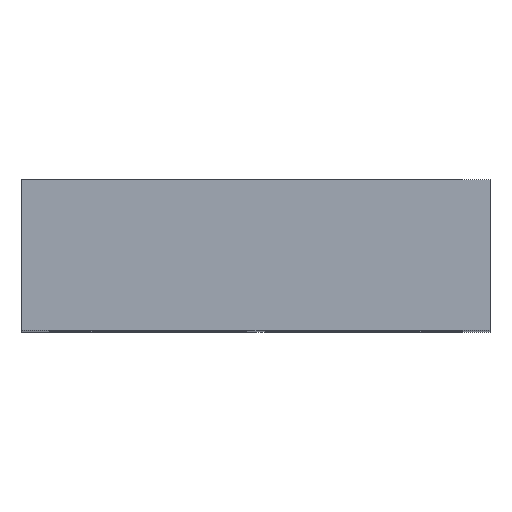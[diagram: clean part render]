
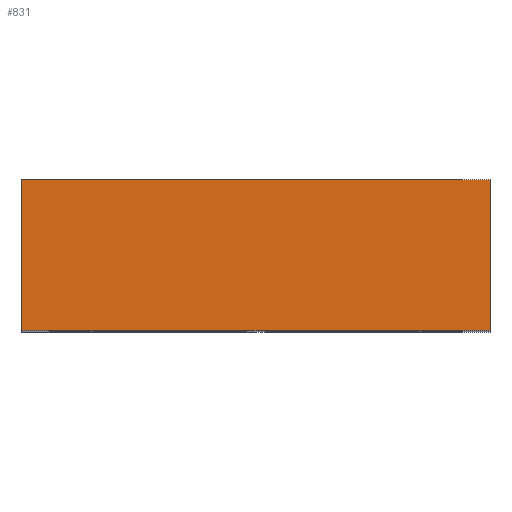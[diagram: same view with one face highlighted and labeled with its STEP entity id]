
A CAD part, top view. The second image highlights one B-rep face of the part: STEP entity #831.
In plain terms, the highlighted planar face has unit normal (0, 0, 1).
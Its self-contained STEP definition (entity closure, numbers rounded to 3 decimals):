
#9 = CARTESIAN_POINT ( 'NONE',  ( 101., 65., 239.5 ) ) ;
#11 = VERTEX_POINT ( 'NONE', #9 ) ;
#36 = VERTEX_POINT ( 'NONE', #65 ) ;
#38 = VERTEX_POINT ( 'NONE', #79 ) ;
#45 = VERTEX_POINT ( 'NONE', #86 ) ;
#65 = CARTESIAN_POINT ( 'NONE',  ( 101., 0., 239.5 ) ) ;
#79 = CARTESIAN_POINT ( 'NONE',  ( -101., 0., 239.5 ) ) ;
#86 = CARTESIAN_POINT ( 'NONE',  ( -101., 65., 239.5 ) ) ;
#111 = CARTESIAN_POINT ( 'NONE',  ( 101., 65., 239.5 ) ) ;
#114 = DIRECTION ( 'NONE',  ( 0., -1., 0. ) ) ;
#131 = CARTESIAN_POINT ( 'NONE',  ( -101., 65., 239.5 ) ) ;
#136 = DIRECTION ( 'NONE',  ( 1., 0., 0. ) ) ;
#155 = CARTESIAN_POINT ( 'NONE',  ( -101., 65., 239.5 ) ) ;
#156 = DIRECTION ( 'NONE',  ( 0., -1., 0. ) ) ;
#243 = CARTESIAN_POINT ( 'NONE',  ( -101., 0., 239.5 ) ) ;
#244 = DIRECTION ( 'NONE',  ( 1., 0., 0. ) ) ;
#293 = PLANE ( 'NONE',  #414 ) ;
#296 = CARTESIAN_POINT ( 'NONE',  ( -101., 65., 239.5 ) ) ;
#302 = DIRECTION ( 'NONE',  ( 0., 0., -1. ) ) ;
#303 = DIRECTION ( 'NONE',  ( -1., 0., 0. ) ) ;
#363 = EDGE_CURVE ( 'NONE', #11, #36, #577, .T. ) ;
#381 = EDGE_CURVE ( 'NONE', #45, #11, #660, .T. ) ;
#394 = EDGE_CURVE ( 'NONE', #45, #38, #688, .T. ) ;
#414 = AXIS2_PLACEMENT_3D ( 'NONE', #296, #302, #303 ) ;
#453 = EDGE_CURVE ( 'NONE', #38, #36, #769, .T. ) ;
#525 = ORIENTED_EDGE ( 'NONE', *, *, #453, .T. ) ;
#558 = EDGE_LOOP ( 'NONE', ( #525, #714, #715, #712 ) ) ;
#577 = LINE ( 'NONE', #111, #633 ) ;
#633 = VECTOR ( 'NONE', #114, 1000. ) ;
#660 = LINE ( 'NONE', #131, #665 ) ;
#665 = VECTOR ( 'NONE', #136, 1000. ) ;
#685 = VECTOR ( 'NONE', #156, 1000. ) ;
#688 = LINE ( 'NONE', #155, #685 ) ;
#712 = ORIENTED_EDGE ( 'NONE', *, *, #394, .T. ) ;
#714 = ORIENTED_EDGE ( 'NONE', *, *, #363, .F. ) ;
#715 = ORIENTED_EDGE ( 'NONE', *, *, #381, .F. ) ;
#769 = LINE ( 'NONE', #243, #770 ) ;
#770 = VECTOR ( 'NONE', #244, 1000. ) ;
#791 = FACE_OUTER_BOUND ( 'NONE', #558, .T. ) ;
#831 = ADVANCED_FACE ( 'NONE', ( #791 ), #293, .F. ) ;
